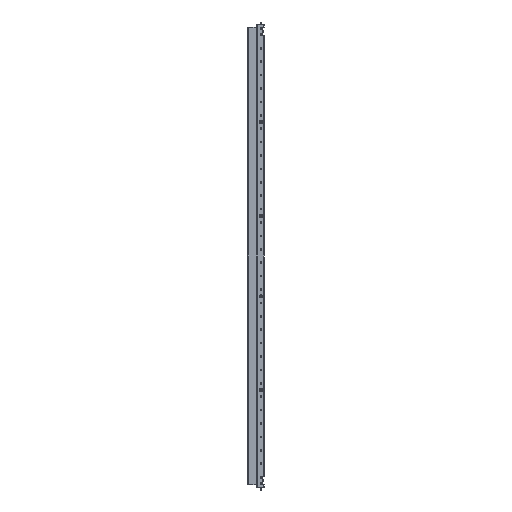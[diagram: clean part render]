
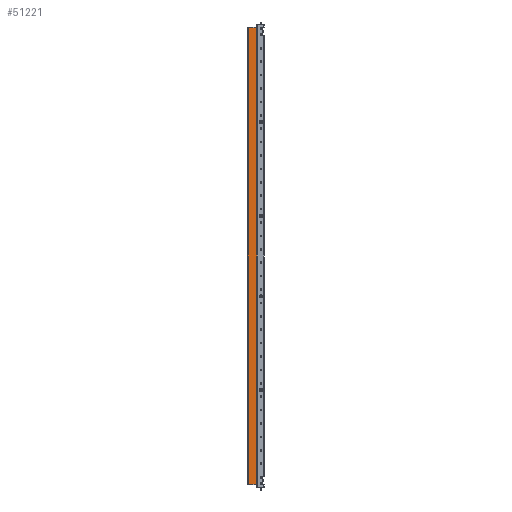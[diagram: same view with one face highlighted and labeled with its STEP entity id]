
A CAD part, front view. The second image highlights one B-rep face of the part: STEP entity #51221.
In plain terms, the highlighted planar face has unit normal (0, -1, 0).
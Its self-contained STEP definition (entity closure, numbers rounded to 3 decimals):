
#1248 = CARTESIAN_POINT ( 'NONE',  ( -28.193, -9.122, 2678. ) ) ;
#1759 = DIRECTION ( 'NONE',  ( 0., 0., -1. ) ) ;
#2054 = DIRECTION ( 'NONE',  ( 0., 0., 1. ) ) ;
#2149 = CARTESIAN_POINT ( 'NONE',  ( -28.193, -9.122, 976. ) ) ;
#2265 = ORIENTED_EDGE ( 'NONE', *, *, #36294, .F. ) ;
#3148 = VERTEX_POINT ( 'NONE', #11596 ) ;
#3182 = DIRECTION ( 'NONE',  ( 1., 0., 0. ) ) ;
#3754 = ORIENTED_EDGE ( 'NONE', *, *, #20709, .F. ) ;
#5287 = EDGE_CURVE ( 'NONE', #53804, #51132, #25836, .T. ) ;
#5823 = VECTOR ( 'NONE', #27101, 1000. ) ;
#6023 = LINE ( 'NONE', #2149, #15280 ) ;
#6653 = CARTESIAN_POINT ( 'NONE',  ( -29.693, -9.122, 2678. ) ) ;
#6744 = FACE_OUTER_BOUND ( 'NONE', #32474, .T. ) ;
#8785 = DIRECTION ( 'NONE',  ( -1., 0., 0. ) ) ;
#9029 = ORIENTED_EDGE ( 'NONE', *, *, #13140, .T. ) ;
#9808 = DIRECTION ( 'NONE',  ( 1., 0., 0. ) ) ;
#10207 = CARTESIAN_POINT ( 'NONE',  ( 2.307, -9.122, 2690.5 ) ) ;
#10796 = VERTEX_POINT ( 'NONE', #33826 ) ;
#10994 = CARTESIAN_POINT ( 'NONE',  ( -26.493, -9.122, 976. ) ) ;
#11411 = VERTEX_POINT ( 'NONE', #17704 ) ;
#11596 = CARTESIAN_POINT ( 'NONE',  ( 2.307, -9.122, 976. ) ) ;
#13140 = EDGE_CURVE ( 'NONE', #15201, #49030, #6023, .T. ) ;
#13280 = AXIS2_PLACEMENT_3D ( 'NONE', #53185, #23615, #2054 ) ;
#13444 = EDGE_CURVE ( 'NONE', #10796, #11411, #39688, .T. ) ;
#13476 = VECTOR ( 'NONE', #9808, 1000. ) ;
#13595 = EDGE_CURVE ( 'NONE', #49030, #3148, #23924, .T. ) ;
#14256 = CARTESIAN_POINT ( 'NONE',  ( -31.293, -9.122, 2678. ) ) ;
#14823 = CARTESIAN_POINT ( 'NONE',  ( -28.193, -9.122, 2678. ) ) ;
#15201 = VERTEX_POINT ( 'NONE', #10994 ) ;
#15280 = VECTOR ( 'NONE', #18999, 1000. ) ;
#15448 = ORIENTED_EDGE ( 'NONE', *, *, #5287, .T. ) ;
#17704 = CARTESIAN_POINT ( 'NONE',  ( 2.307, -9.122, 2678. ) ) ;
#18376 = DIRECTION ( 'NONE',  ( -1., 0., 0. ) ) ;
#18999 = DIRECTION ( 'NONE',  ( 1., 0., 0. ) ) ;
#19729 = PLANE ( 'NONE',  #13280 ) ;
#20709 = EDGE_CURVE ( 'NONE', #15201, #51132, #42785, .T. ) ;
#22570 = ORIENTED_EDGE ( 'NONE', *, *, #31670, .T. ) ;
#23100 = ORIENTED_EDGE ( 'NONE', *, *, #13595, .T. ) ;
#23104 = DIRECTION ( 'NONE',  ( -1., 0., 0. ) ) ;
#23127 = VECTOR ( 'NONE', #18376, 1000. ) ;
#23615 = DIRECTION ( 'NONE',  ( 0., 1., 0. ) ) ;
#23924 = LINE ( 'NONE', #49630, #38239 ) ;
#24628 = VECTOR ( 'NONE', #8785, 1000. ) ;
#25627 = VECTOR ( 'NONE', #23104, 1000. ) ;
#25836 = LINE ( 'NONE', #42688, #36083 ) ;
#26480 = CARTESIAN_POINT ( 'NONE',  ( -31.293, -9.122, 976. ) ) ;
#27101 = DIRECTION ( 'NONE',  ( 0., 0., -1. ) ) ;
#27288 = ORIENTED_EDGE ( 'NONE', *, *, #28672, .T. ) ;
#28672 = EDGE_CURVE ( 'NONE', #52537, #53804, #39134, .T. ) ;
#31670 = EDGE_CURVE ( 'NONE', #10796, #52537, #39932, .T. ) ;
#32474 = EDGE_LOOP ( 'NONE', ( #15448, #3754, #9029, #23100, #2265, #36022, #22570, #27288 ) ) ;
#33826 = CARTESIAN_POINT ( 'NONE',  ( 0.607, -9.122, 2678. ) ) ;
#34053 = CARTESIAN_POINT ( 'NONE',  ( 0.607, -9.122, 976. ) ) ;
#36022 = ORIENTED_EDGE ( 'NONE', *, *, #13444, .F. ) ;
#36083 = VECTOR ( 'NONE', #1759, 1000. ) ;
#36294 = EDGE_CURVE ( 'NONE', #11411, #3148, #42863, .T. ) ;
#38239 = VECTOR ( 'NONE', #3182, 1000. ) ;
#39134 = LINE ( 'NONE', #14823, #25627 ) ;
#39688 = LINE ( 'NONE', #14256, #13476 ) ;
#39932 = LINE ( 'NONE', #1248, #23127 ) ;
#40093 = CARTESIAN_POINT ( 'NONE',  ( -26.493, -9.122, 2678. ) ) ;
#42688 = CARTESIAN_POINT ( 'NONE',  ( -29.693, -9.122, 2690.5 ) ) ;
#42785 = LINE ( 'NONE', #26480, #24628 ) ;
#42863 = LINE ( 'NONE', #10207, #5823 ) ;
#48209 = CARTESIAN_POINT ( 'NONE',  ( -29.693, -9.122, 976. ) ) ;
#49030 = VERTEX_POINT ( 'NONE', #34053 ) ;
#49630 = CARTESIAN_POINT ( 'NONE',  ( -28.193, -9.122, 976. ) ) ;
#51132 = VERTEX_POINT ( 'NONE', #48209 ) ;
#51221 = ADVANCED_FACE ( 'NONE', ( #6744 ), #19729, .F. ) ;
#52537 = VERTEX_POINT ( 'NONE', #40093 ) ;
#53185 = CARTESIAN_POINT ( 'NONE',  ( -28.193, -9.122, 2690.5 ) ) ;
#53804 = VERTEX_POINT ( 'NONE', #6653 ) ;
